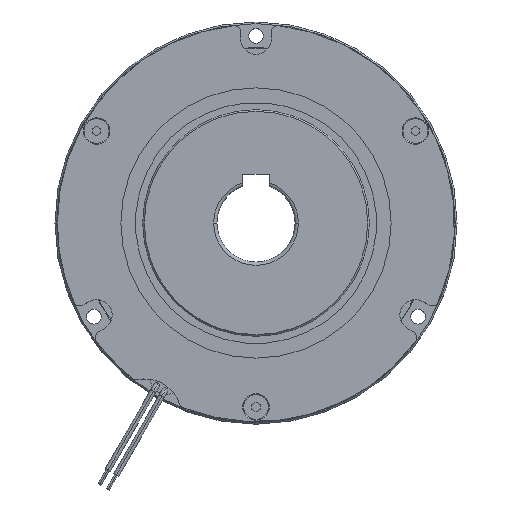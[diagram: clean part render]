
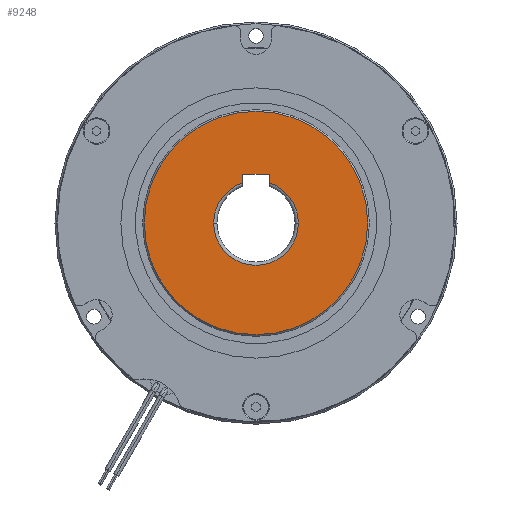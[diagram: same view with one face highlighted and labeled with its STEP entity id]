
A CAD part, top view. The second image highlights one B-rep face of the part: STEP entity #9248.
In plain terms, the highlighted planar face has unit normal (0, 0, 1).
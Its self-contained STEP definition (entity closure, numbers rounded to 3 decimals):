
#503 = VERTEX_POINT ( 'NONE', #1125 ) ;
#622 = CARTESIAN_POINT ( 'NONE',  ( 0., 0., 24. ) ) ;
#623 = DIRECTION ( 'NONE',  ( 0., 0., 1. ) ) ;
#624 = DIRECTION ( 'NONE',  ( 1., 0., 0. ) ) ;
#644 = CARTESIAN_POINT ( 'NONE',  ( 0., 0., 24. ) ) ;
#645 = DIRECTION ( 'NONE',  ( 0., 0., -1. ) ) ;
#646 = DIRECTION ( 'NONE',  ( 1., 0., 0. ) ) ;
#664 = CARTESIAN_POINT ( 'NONE',  ( -4., 15., 24. ) ) ;
#670 = CARTESIAN_POINT ( 'NONE',  ( 4., 15., 24. ) ) ;
#671 = DIRECTION ( 'NONE',  ( 0., 1., 0. ) ) ;
#675 = DIRECTION ( 'NONE',  ( -1., 0., 0. ) ) ;
#682 = CARTESIAN_POINT ( 'NONE',  ( -4., 15., 24. ) ) ;
#683 = DIRECTION ( 'NONE',  ( 0., -1., 0. ) ) ;
#1125 = CARTESIAN_POINT ( 'NONE',  ( 4., 15., 24. ) ) ;
#1404 = CIRCLE ( 'NONE', #6838, 34.3 ) ;
#1409 = CIRCLE ( 'NONE', #6844, 13. ) ;
#1412 = LINE ( 'NONE', #664, #1421 ) ;
#1414 = LINE ( 'NONE', #670, #1417 ) ;
#1417 = VECTOR ( 'NONE', #671, 1000. ) ;
#1421 = VECTOR ( 'NONE', #675, 1000. ) ;
#1428 = LINE ( 'NONE', #682, #1431 ) ;
#1431 = VECTOR ( 'NONE', #683, 1000. ) ;
#2018 = VERTEX_POINT ( 'NONE', #11058 ) ;
#2019 = VERTEX_POINT ( 'NONE', #11059 ) ;
#2061 = VERTEX_POINT ( 'NONE', #11098 ) ;
#2128 = VERTEX_POINT ( 'NONE', #10997 ) ;
#2147 = VERTEX_POINT ( 'NONE', #11016 ) ;
#2164 = VERTEX_POINT ( 'NONE', #10801 ) ;
#2174 = VERTEX_POINT ( 'NONE', #10811 ) ;
#2824 = CIRCLE ( 'NONE', #7045, 13. ) ;
#2833 = CIRCLE ( 'NONE', #7050, 13. ) ;
#3029 = CIRCLE ( 'NONE', #7122, 34.3 ) ;
#6838 = AXIS2_PLACEMENT_3D ( 'NONE', #622, #623, #624 ) ;
#6844 = AXIS2_PLACEMENT_3D ( 'NONE', #644, #645, #646 ) ;
#7045 = AXIS2_PLACEMENT_3D ( 'NONE', #7413, #7414, #7415 ) ;
#7050 = AXIS2_PLACEMENT_3D ( 'NONE', #7449, #7450, #7451 ) ;
#7122 = AXIS2_PLACEMENT_3D ( 'NONE', #7227, #7228, #7229 ) ;
#7227 = CARTESIAN_POINT ( 'NONE',  ( 0., 0., 24. ) ) ;
#7228 = DIRECTION ( 'NONE',  ( 0., 0., 1. ) ) ;
#7229 = DIRECTION ( 'NONE',  ( 1., 0., 0. ) ) ;
#7413 = CARTESIAN_POINT ( 'NONE',  ( 0., 0., 24. ) ) ;
#7414 = DIRECTION ( 'NONE',  ( 0., 0., -1. ) ) ;
#7415 = DIRECTION ( 'NONE',  ( 1., 0., 0. ) ) ;
#7449 = CARTESIAN_POINT ( 'NONE',  ( 0., 0., 24. ) ) ;
#7450 = DIRECTION ( 'NONE',  ( 0., 0., -1. ) ) ;
#7451 = DIRECTION ( 'NONE',  ( 1., 0., 0. ) ) ;
#7866 = PLANE ( 'NONE',  #9686 ) ;
#7873 = CARTESIAN_POINT ( 'NONE',  ( 0., 0., 24. ) ) ;
#7874 = DIRECTION ( 'NONE',  ( 0., 0., 1. ) ) ;
#7875 = DIRECTION ( 'NONE',  ( 1., 0., 0. ) ) ;
#8478 = ORIENTED_EDGE ( 'NONE', *, *, #10789, .T. ) ;
#8488 = ORIENTED_EDGE ( 'NONE', *, *, #10783, .T. ) ;
#8502 = ORIENTED_EDGE ( 'NONE', *, *, #11117, .F. ) ;
#8503 = ORIENTED_EDGE ( 'NONE', *, *, #11475, .T. ) ;
#8540 = ORIENTED_EDGE ( 'NONE', *, *, #10794, .F. ) ;
#8573 = ORIENTED_EDGE ( 'NONE', *, *, #11483, .T. ) ;
#8578 = ORIENTED_EDGE ( 'NONE', *, *, #10796, .F. ) ;
#8584 = ORIENTED_EDGE ( 'NONE', *, *, #11617, .T. ) ;
#9248 = ADVANCED_FACE ( 'NONE', ( #13874, #13878 ), #7866, .T. ) ;
#9686 = AXIS2_PLACEMENT_3D ( 'NONE', #7873, #7874, #7875 ) ;
#10195 = EDGE_LOOP ( 'NONE', ( #8540, #8478, #8503, #8573, #8502, #8578 ) ) ;
#10372 = EDGE_LOOP ( 'NONE', ( #8488, #8584 ) ) ;
#10783 = EDGE_CURVE ( 'NONE', #2164, #2061, #1404, .T. ) ;
#10789 = EDGE_CURVE ( 'NONE', #2147, #2174, #1409, .T. ) ;
#10794 = EDGE_CURVE ( 'NONE', #2147, #503, #1414, .T. ) ;
#10796 = EDGE_CURVE ( 'NONE', #503, #2128, #1412, .T. ) ;
#10801 = CARTESIAN_POINT ( 'NONE',  ( -34.3, 0., 24. ) ) ;
#10811 = CARTESIAN_POINT ( 'NONE',  ( 13., 0., 24. ) ) ;
#10997 = CARTESIAN_POINT ( 'NONE',  ( -4., 15., 24. ) ) ;
#11016 = CARTESIAN_POINT ( 'NONE',  ( 4., 12.369, 24. ) ) ;
#11058 = CARTESIAN_POINT ( 'NONE',  ( -13., 0., 24. ) ) ;
#11059 = CARTESIAN_POINT ( 'NONE',  ( -4., 12.369, 24. ) ) ;
#11098 = CARTESIAN_POINT ( 'NONE',  ( 34.3, 0., 24. ) ) ;
#11117 = EDGE_CURVE ( 'NONE', #2128, #2019, #1428, .T. ) ;
#11475 = EDGE_CURVE ( 'NONE', #2174, #2018, #2824, .T. ) ;
#11483 = EDGE_CURVE ( 'NONE', #2018, #2019, #2833, .T. ) ;
#11617 = EDGE_CURVE ( 'NONE', #2061, #2164, #3029, .T. ) ;
#13874 = FACE_BOUND ( 'NONE', #10195, .T. ) ;
#13878 = FACE_OUTER_BOUND ( 'NONE', #10372, .T. ) ;
